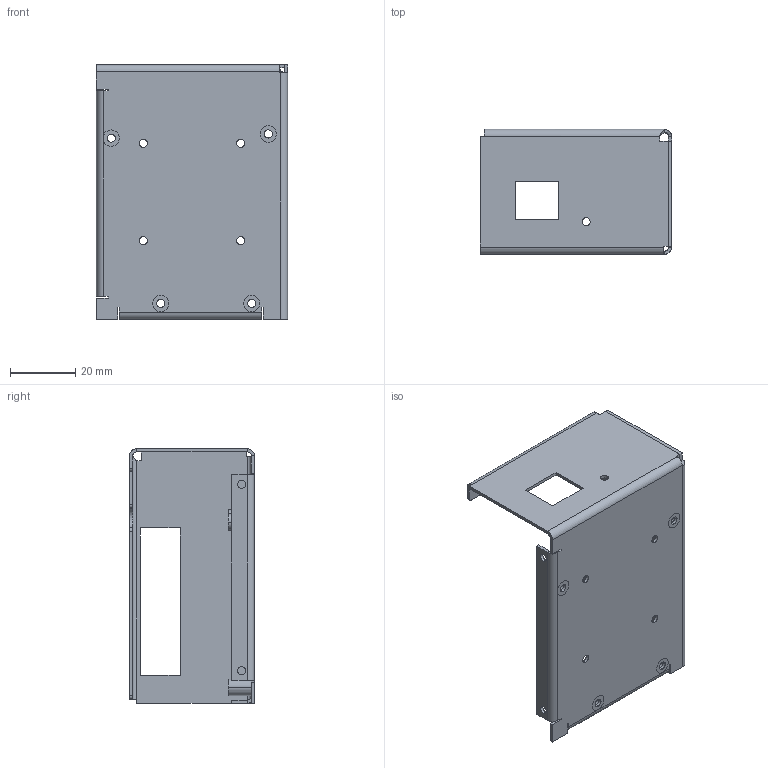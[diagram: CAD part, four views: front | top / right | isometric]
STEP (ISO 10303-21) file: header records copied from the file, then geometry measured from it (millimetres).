
FILE_DESCRIPTION (( 'STEP AP214' ), '1' );
FILE_NAME ('base.step', '2021-11-29T02:41:20', ( '' ), ( '' ), 'SwSTEP 2.0', 'SolidWorks 2020', '' );
FILE_SCHEMA (( 'AUTOMOTIVE_DESIGN' ));
Length unit declared in the file: millimetre
Products named in the file (1): base
Bounding box: 58.74 x 38.37 x 78.21 mm (x, y, z)
Volume: 10036.5 mm3; surface area: 21545.3 mm2
Topology: 5 solids, 5 shells, 146 faces, 364 edges, 228 vertices
Faces by surface type: plane 83, cylinder 61, bspline 2
Entity records: 4616 total; most frequent: CARTESIAN_POINT 905, DIRECTION 768, ORIENTED_EDGE 728, EDGE_CURVE 364, AXIS2_PLACEMENT_3D 263, LINE 242, VECTOR 242, VERTEX_POINT 228
